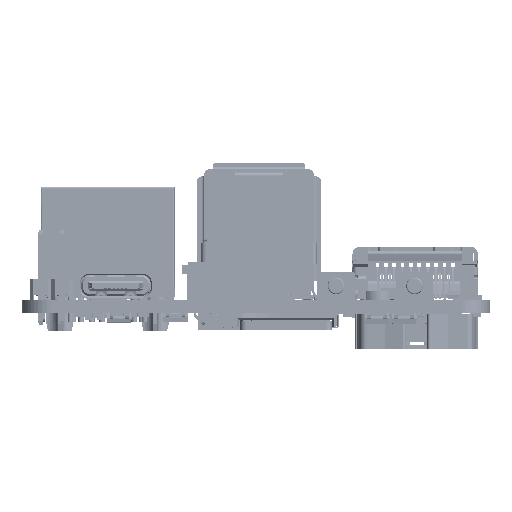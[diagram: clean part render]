
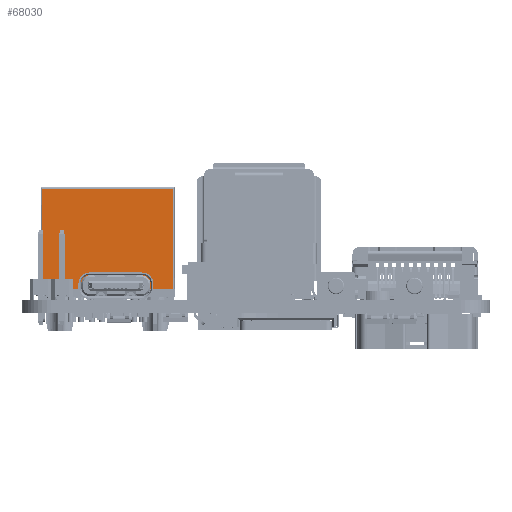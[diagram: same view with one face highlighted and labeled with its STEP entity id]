
A CAD part, left-side view. The second image highlights one B-rep face of the part: STEP entity #68030.
In plain terms, the highlighted planar face has unit normal (-1, 0, 0) as drawn and (0, 0, -1) by its records, which use the part's own axes.
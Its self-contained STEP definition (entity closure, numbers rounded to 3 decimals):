
#60116=DIRECTION('',(0.,1.,0.));
#60117=VECTOR('',#60116,12.05);
#60118=CARTESIAN_POINT('',(7.82,-5.5,-21.15));
#60119=LINE('',#60118,#60117);
#60123=DIRECTION('',(-1.,0.,0.));
#60124=VECTOR('',#60123,15.64);
#60125=CARTESIAN_POINT('',(7.82,6.55,-21.15));
#60126=LINE('',#60125,#60124);
#60130=DIRECTION('',(0.,-1.,0.));
#60131=VECTOR('',#60130,12.05);
#60132=CARTESIAN_POINT('',(-7.82,6.55,-21.15));
#60133=LINE('',#60132,#60131);
#60137=DIRECTION('',(1.,0.,0.));
#60138=VECTOR('',#60137,15.64);
#60139=CARTESIAN_POINT('',(-7.82,-5.5,-21.15));
#60140=LINE('',#60139,#60138);
#64523=CARTESIAN_POINT('',(7.82,-5.5,-21.15));
#64525=VERTEX_POINT('',#64523);
#64529=CARTESIAN_POINT('',(7.82,6.55,-21.15));
#64530=VERTEX_POINT('',#64529);
#64531=CARTESIAN_POINT('',(-7.82,6.55,-21.15));
#64532=VERTEX_POINT('',#64531);
#64538=CARTESIAN_POINT('',(-7.82,-5.5,-21.15));
#64540=VERTEX_POINT('',#64538);
#68019=CARTESIAN_POINT('',(0.,0.,-21.15));
#68020=DIRECTION('',(0.,0.,1.));
#68021=DIRECTION('',(1.,0.,0.));
#68022=AXIS2_PLACEMENT_3D('',#68019,#68020,#68021);
#68023=PLANE('',#68022);
#68024=ORIENTED_EDGE('',*,*,#67860,.T.);
#68025=ORIENTED_EDGE('',*,*,#68009,.T.);
#68026=ORIENTED_EDGE('',*,*,#67817,.T.);
#68027=ORIENTED_EDGE('',*,*,#67832,.T.);
#68028=EDGE_LOOP('',(#68024,#68025,#68026,#68027));
#68029=FACE_OUTER_BOUND('',#68028,.F.);
#68030=ADVANCED_FACE('',(#68029),#68023,.F.);
#67817=EDGE_CURVE('',#64532,#64540,#60133,.T.);
#67832=EDGE_CURVE('',#64540,#64525,#60140,.T.);
#67860=EDGE_CURVE('',#64525,#64530,#60119,.T.);
#68009=EDGE_CURVE('',#64530,#64532,#60126,.T.);
